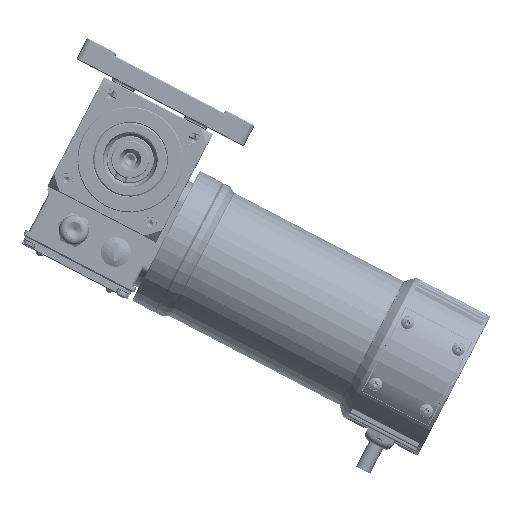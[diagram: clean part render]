
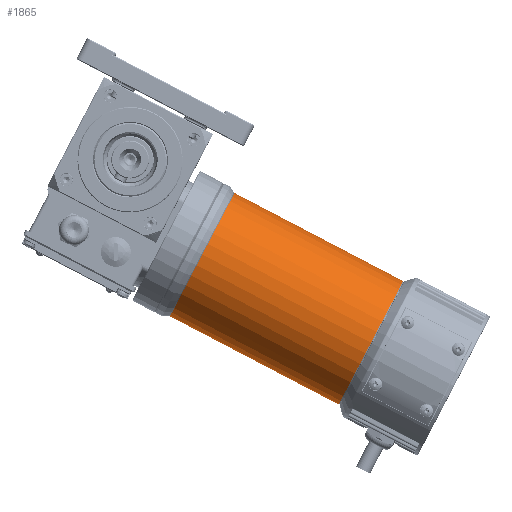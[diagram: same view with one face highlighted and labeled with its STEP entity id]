
A CAD part, top view. The second image highlights one B-rep face of the part: STEP entity #1865.
In plain terms, the highlighted cylindrical face has radius 44.25 mm (diameter 88.5 mm), a partial arc.
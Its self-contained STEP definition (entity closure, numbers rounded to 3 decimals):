
#1791=CARTESIAN_POINT('',(232.432,-101.293,-217.319));
#1792=VERTEX_POINT('',#1791);
#1801=CARTESIAN_POINT('',(191.432,-179.723,-217.319));
#1802=VERTEX_POINT('',#1801);
#1828=CARTESIAN_POINT('',(265.548,-168.536,-217.319));
#1829=DIRECTION('',(-0.886,0.463,0.));
#1830=DIRECTION('',(-0.463,-0.886,0.));
#1831=AXIS2_PLACEMENT_3D('',#1828,#1829,#1830);
#1832=CYLINDRICAL_SURFACE('',#1831,44.25);
#1833=CARTESIAN_POINT('',(298.664,-235.779,-217.319));
#1834=VERTEX_POINT('',#1833);
#1835=CARTESIAN_POINT('',(298.664,-235.779,-217.319));
#1836=DIRECTION('',(-0.886,0.463,0.));
#1837=VECTOR('',#1836,121.);
#1838=LINE('',#1835,#1837);
#1839=EDGE_CURVE('',#1834,#1802,#1838,.T.);
#1840=ORIENTED_EDGE('',*,*,#1839,.F.);
#1841=CARTESIAN_POINT('',(339.664,-157.349,-217.319));
#1842=VERTEX_POINT('',#1841);
#1843=CARTESIAN_POINT('',(319.164,-196.564,-217.319));
#1844=DIRECTION('',(0.886,-0.463,0.));
#1845=DIRECTION('',(0.463,0.886,0.));
#1846=AXIS2_PLACEMENT_3D('',#1843,#1844,#1845);
#1847=CIRCLE('',#1846,44.25);
#1848=EDGE_CURVE('',#1842,#1834,#1847,.T.);
#1849=ORIENTED_EDGE('',*,*,#1848,.F.);
#1850=CARTESIAN_POINT('',(232.432,-101.293,-217.319));
#1851=DIRECTION('',(0.886,-0.463,0.));
#1852=VECTOR('',#1851,121.0);
#1853=LINE('',#1850,#1852);
#1854=EDGE_CURVE('',#1792,#1842,#1853,.T.);
#1855=ORIENTED_EDGE('',*,*,#1854,.F.);
#1856=CARTESIAN_POINT('',(211.932,-140.508,-217.319));
#1857=DIRECTION('',(-0.886,0.463,0.));
#1858=DIRECTION('',(0.463,0.886,0.));
#1859=AXIS2_PLACEMENT_3D('',#1856,#1857,#1858);
#1860=CIRCLE('',#1859,44.25);
#1861=EDGE_CURVE('',#1802,#1792,#1860,.T.);
#1862=ORIENTED_EDGE('',*,*,#1861,.F.);
#1863=EDGE_LOOP('',(#1840,#1849,#1855,#1862));
#1864=FACE_OUTER_BOUND('',#1863,.T.);
#1865=ADVANCED_FACE('',(#1864),#1832,.T.);
